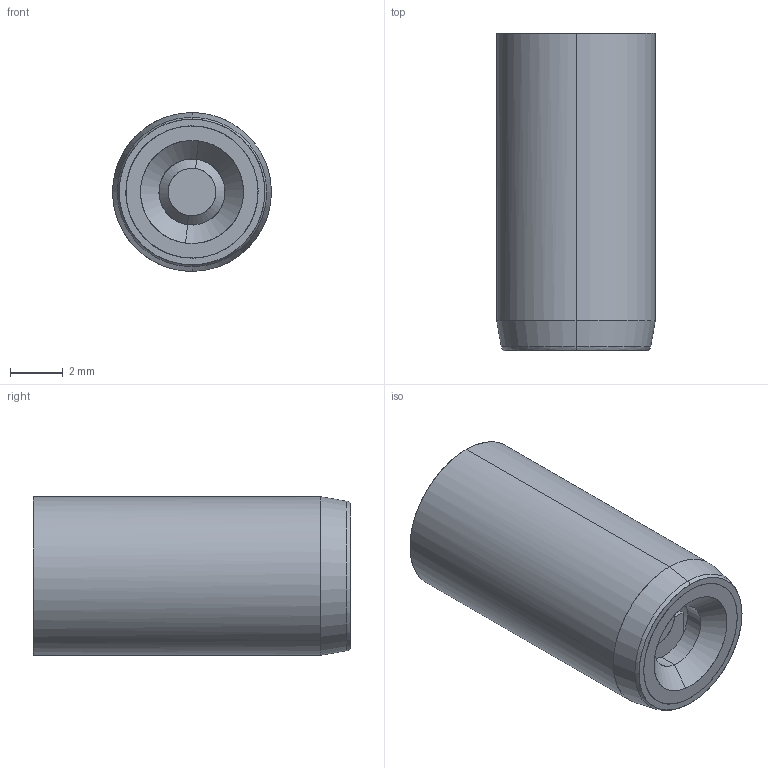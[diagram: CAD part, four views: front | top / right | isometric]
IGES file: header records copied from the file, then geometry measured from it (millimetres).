
Start section: START RECORD GO HERE.
Global section: file name: va065212.igs; native system: DASSAULT SYSTEMES CATIA V5 R20 - www.3ds.com; preprocessor: CATIA Version 5 Release 20 ; author: Utente; organization: NB04-ASUS; date: 20201107.140755; units: millimetre
Bounding box: 6 x 12 x 6 mm (x, y, z)
Surface area: 763.4 mm2 (no closed solid volume)
Topology: 0 solids, 0 shells, 146 faces, 642 edges, 642 vertices
Faces by surface type: bspline 68, revolution 52, plane 26
